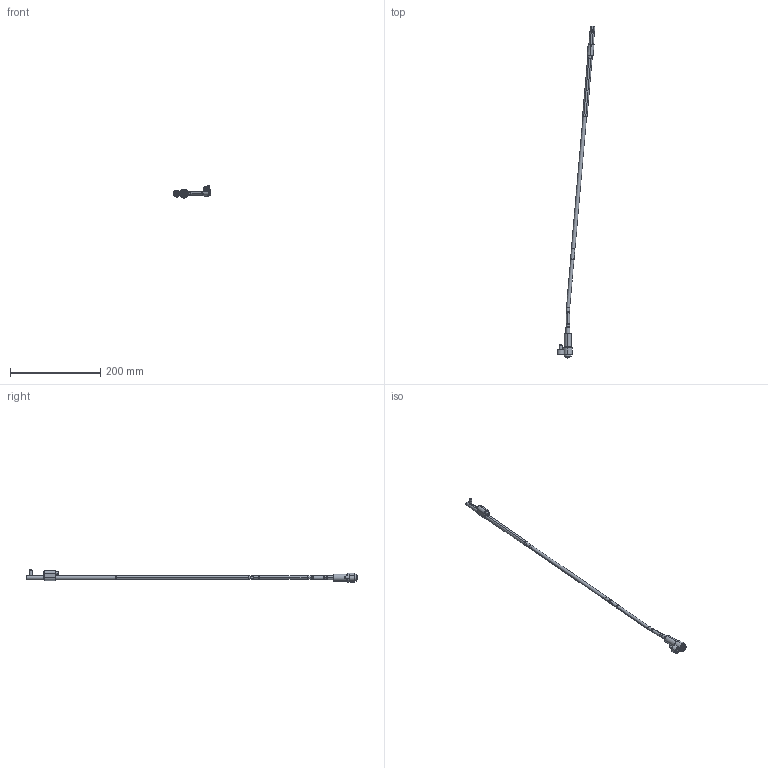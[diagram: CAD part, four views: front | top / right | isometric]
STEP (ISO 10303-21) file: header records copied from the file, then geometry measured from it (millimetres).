
FILE_DESCRIPTION (( 'STEP AP214' ), '1' );
FILE_NAME ('WL080100L-EJE 5°.STEP', '2021-03-19T15:25:22', ( '' ), ( '' ), 'SwSTEP 2.0', 'SolidWorks 2019', '' );
FILE_SCHEMA (( 'AUTOMOTIVE_DESIGN' ));
Length unit declared in the file: millimetre
Products named in the file (17): Web-WL08-A3; WL080100-C; Web-WL08-F01; 1DIN912545_DIN 912 M5 x 50 --- 50C; Web-WL08-A2; WL080100-B1_WL0800FF-1; WL080100-B_WL0800FF; Web-WP08-1; Web-WL08-A1; WL080100-D; Web-WL08XX-A7_ON-WL080100-5; WL080100-E; 1DIN912616_DIN 912 M6 x 16 --- 16C; WL080100L-EJE 5°; 9DR2206-TOR; Web-WL08-F00.SLDPRT; 3IMAN4X2-150_con sello
Assembly tree (16 placements, depth 3):
  WL080100L-EJE 5°
    Web-WP08-1
    Web-WL08XX-A7_ON-WL080100-5
    Web-WL08-A3
    Web-WL08-A2
    Web-WL08-A1
    WL080100-D
    WL080100-C
    WL080100-B_WL0800FF
      WL080100-B1_WL0800FF-1
      3IMAN4X2-150_con sello
    WL080100-E
    9DR2206-TOR
    Web-WL08-F00.SLDPRT
      Web-WL08-F01
      1DIN912545_DIN 912 M5 x 50 --- 50C
      1DIN912616_DIN 912 M6 x 16 --- 16C
Bounding box: 83.74 x 735.02 x 26.9 mm (x, y, z)
Volume: 57313.5 mm3; surface area: 33636 mm2
Topology: 15 solids, 15 shells, 424 faces, 888 edges, 516 vertices
Faces by surface type: plane 132, cylinder 128, cone 116, torus 48
Entity records: 13492 total; most frequent: DIRECTION 2218, CARTESIAN_POINT 2045, ORIENTED_EDGE 1756, AXIS2_PLACEMENT_3D 921, EDGE_CURVE 878, VERTEX_POINT 516, CIRCLE 476, EDGE_LOOP 468
